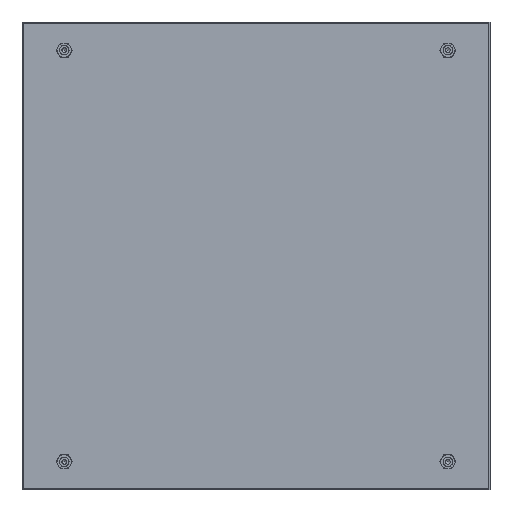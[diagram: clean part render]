
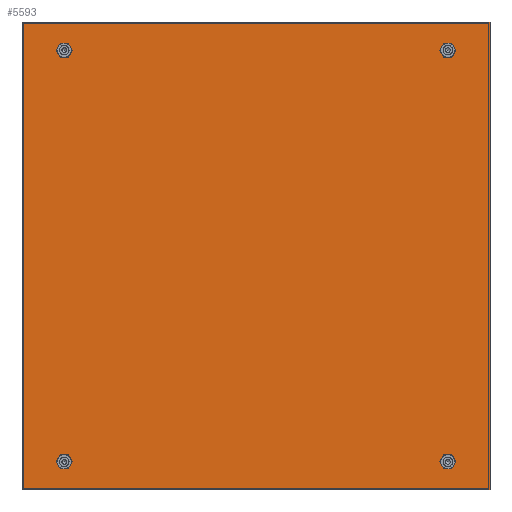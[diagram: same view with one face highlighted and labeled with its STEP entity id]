
A CAD part, left-side view. The second image highlights one B-rep face of the part: STEP entity #5593.
In plain terms, the highlighted planar face has unit normal (-1, 0, 0).
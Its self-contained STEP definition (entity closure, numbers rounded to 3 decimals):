
#353=LINE('',#9763,#912);
#354=LINE('',#9766,#913);
#355=LINE('',#9768,#914);
#356=LINE('',#9770,#915);
#357=LINE('',#9772,#916);
#358=LINE('',#9774,#917);
#912=VECTOR('',#8038,1000.);
#913=VECTOR('',#8039,1000.);
#914=VECTOR('',#8040,1000.);
#915=VECTOR('',#8041,1000.);
#916=VECTOR('',#8042,1000.);
#917=VECTOR('',#8043,1000.);
#1401=PLANE('',#7340);
#1743=ORIENTED_EDGE('',*,*,#3260,.T.);
#1744=ORIENTED_EDGE('',*,*,#3261,.T.);
#1745=ORIENTED_EDGE('',*,*,#3262,.T.);
#1746=ORIENTED_EDGE('',*,*,#3263,.T.);
#1747=ORIENTED_EDGE('',*,*,#3264,.T.);
#1748=ORIENTED_EDGE('',*,*,#3265,.F.);
#1749=ORIENTED_EDGE('',*,*,#3158,.F.);
#1750=ORIENTED_EDGE('',*,*,#3160,.F.);
#1751=ORIENTED_EDGE('',*,*,#3162,.F.);
#1752=ORIENTED_EDGE('',*,*,#3266,.F.);
#3158=EDGE_CURVE('',#3935,#3935,#4467,.T.);
#3160=EDGE_CURVE('',#3937,#3937,#4469,.T.);
#3162=EDGE_CURVE('',#3939,#3939,#4471,.T.);
#3260=EDGE_CURVE('',#4014,#4015,#353,.T.);
#3261=EDGE_CURVE('',#4015,#4016,#354,.T.);
#3262=EDGE_CURVE('',#4016,#4017,#355,.T.);
#3263=EDGE_CURVE('',#4017,#4018,#356,.T.);
#3264=EDGE_CURVE('',#4018,#4019,#357,.T.);
#3265=EDGE_CURVE('',#4014,#4019,#358,.F.);
#3266=EDGE_CURVE('',#4020,#4020,#4472,.T.);
#3935=VERTEX_POINT('',#9553);
#3937=VERTEX_POINT('',#9558);
#3939=VERTEX_POINT('',#9563);
#4014=VERTEX_POINT('',#9764);
#4015=VERTEX_POINT('',#9765);
#4016=VERTEX_POINT('',#9767);
#4017=VERTEX_POINT('',#9769);
#4018=VERTEX_POINT('',#9771);
#4019=VERTEX_POINT('',#9773);
#4020=VERTEX_POINT('',#9776);
#4467=CIRCLE('',#7306,5.125);
#4469=CIRCLE('',#7309,5.125);
#4471=CIRCLE('',#7312,5.125);
#4472=CIRCLE('',#7341,5.125);
#4673=EDGE_LOOP('',(#1743,#1744,#1745,#1746,#1747,#1748));
#4674=EDGE_LOOP('',(#1749));
#4675=EDGE_LOOP('',(#1750));
#4676=EDGE_LOOP('',(#1751));
#4677=EDGE_LOOP('',(#1752));
#5096=FACE_BOUND('',#4673,.T.);
#5097=FACE_BOUND('',#4674,.T.);
#5098=FACE_BOUND('',#4675,.T.);
#5099=FACE_BOUND('',#4676,.T.);
#5100=FACE_BOUND('',#4677,.T.);
#5593=ADVANCED_FACE('',(#5096,#5097,#5098,#5099,#5100),#1401,.T.);
#7306=AXIS2_PLACEMENT_3D('',#9552,#7871,#7872);
#7309=AXIS2_PLACEMENT_3D('',#9557,#7877,#7878);
#7312=AXIS2_PLACEMENT_3D('',#9562,#7883,#7884);
#7340=AXIS2_PLACEMENT_3D('',#9762,#8036,#8037);
#7341=AXIS2_PLACEMENT_3D('',#9775,#8044,#8045);
#7871=DIRECTION('',(-1.,0.,0.));
#7872=DIRECTION('',(0.,-1.,0.));
#7877=DIRECTION('',(-1.,0.,0.));
#7878=DIRECTION('',(0.,-1.,0.));
#7883=DIRECTION('',(-1.,0.,0.));
#7884=DIRECTION('',(0.,-1.,0.));
#8036=DIRECTION('',(-1.,0.,0.));
#8037=DIRECTION('',(0.,-1.,0.));
#8038=DIRECTION('',(0.,0.,-1.));
#8039=DIRECTION('',(0.,-1.,0.));
#8040=DIRECTION('',(0.,0.,1.));
#8041=DIRECTION('',(0.,1.,0.));
#8042=DIRECTION('',(0.,0.,-1.));
#8043=DIRECTION('',(0.,1.,0.));
#8044=DIRECTION('',(-1.,0.,0.));
#8045=DIRECTION('',(0.,-1.,0.));
#9552=CARTESIAN_POINT('',(-1.2,205.,-220.));
#9553=CARTESIAN_POINT('',(-1.2,199.875,-220.));
#9557=CARTESIAN_POINT('',(-1.2,205.,220.));
#9558=CARTESIAN_POINT('',(-1.2,199.875,220.));
#9562=CARTESIAN_POINT('',(-1.2,-205.,-220.));
#9563=CARTESIAN_POINT('',(-1.2,-210.125,-220.));
#9762=CARTESIAN_POINT('',(-1.2,0.,0.));
#9763=CARTESIAN_POINT('',(-1.2,250.,0.));
#9764=CARTESIAN_POINT('',(-1.2,250.,248.797));
#9765=CARTESIAN_POINT('',(-1.2,250.,-250.));
#9766=CARTESIAN_POINT('',(-1.2,0.,-250.));
#9767=CARTESIAN_POINT('',(-1.2,-250.,-250.));
#9768=CARTESIAN_POINT('',(-1.2,-250.,0.));
#9769=CARTESIAN_POINT('',(-1.2,-250.,250.));
#9770=CARTESIAN_POINT('',(-1.2,0.,250.));
#9771=CARTESIAN_POINT('',(-1.2,248.797,250.));
#9772=CARTESIAN_POINT('',(-1.2,248.797,0.));
#9773=CARTESIAN_POINT('',(-1.2,248.797,248.797));
#9774=CARTESIAN_POINT('',(-1.2,248.8,248.797));
#9775=CARTESIAN_POINT('',(-1.2,-205.,220.));
#9776=CARTESIAN_POINT('',(-1.2,-210.125,220.));
